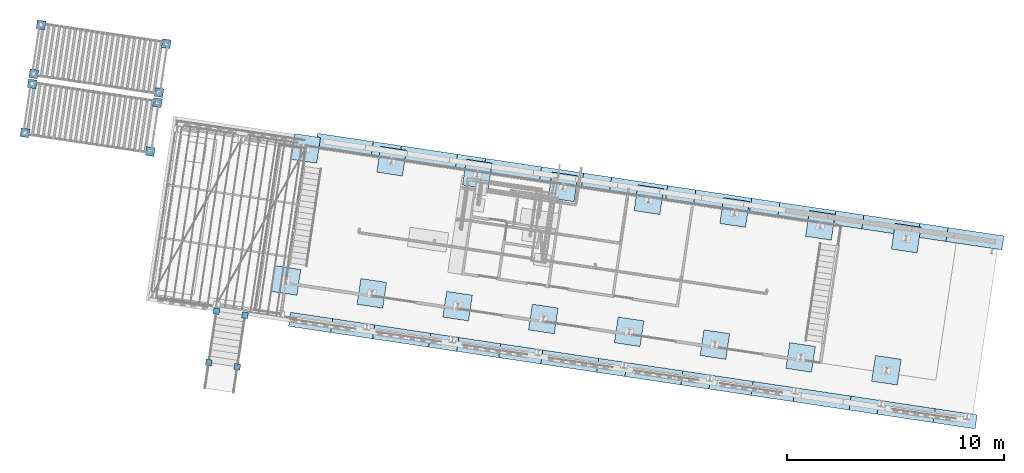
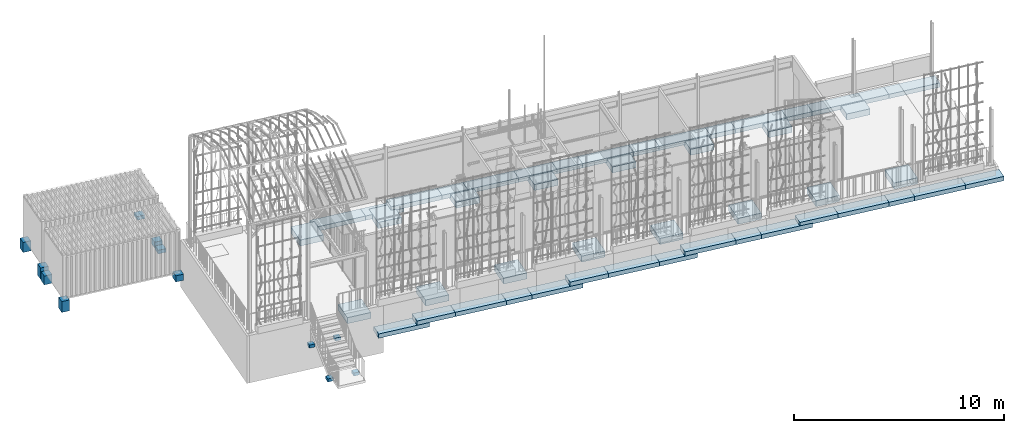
# One storey, part 1 of 142: 60 footings, 4 elements without a shape of their own.
"""IFC4 building model written with IfcOpenShell, lengths in metres."""

from ifc_helpers import new_model, si_unit, direction, frame, origin_with_axes, place, context, subcontext, project, spatial, polyline, outline, extrude, material, element, aggregate, save


model = new_model("IFC4")

# Units and contexts
model_context = context("Model", 3, precision=1e-05, world=origin_with_axes(), true_north=direction((0.0, 1.0)))
body_context = subcontext(model_context, "Body", "Model", "MODEL_VIEW")
ifc_project = project(units=[si_unit("VOLUMEUNIT", "CUBIC_METRE"), si_unit("LENGTHUNIT", "METRE"), si_unit("AREAUNIT", "SQUARE_METRE")], contexts=[model_context])

# Site, building, storey
site_placement = place(None, origin_with_axes())
site = spatial("IfcSite", under=ifc_project, at=site_placement, Name="Lares · Rua das Mercês · artigo 4771")
building_placement = place(site_placement, frame((12.0, 10.2, 13.9), z_axis=(0.0, 0.0, 1.0), x_axis=(0.989015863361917, -0.147809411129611, 0.0)))
building = spatial("IfcBuilding", under=site, at=building_placement, Name="Casa Sobreposta")
storey_placement = place(building_placement, origin_with_axes())
storey = spatial("IfcBuildingStorey", under=building, at=storey_placement, Name="00 · Habitação e estacionamento", Elevation=13.9)

# Footings
ifc_material = material(Name="Betão armado / Stahlbeton", Category="concrete")
footing_1_placement = place(storey_placement, frame((0.0, 0.0, -1.6), z_axis=(0.0, 0.0, 1.0), x_axis=(1.0, 0.0, 0.0)))
element("IfcFooting", 1, at=footing_1_placement, inside=storey, material=ifc_material, Name="Sapata 1A · hipótese", PredefinedType="PAD_FOOTING", context=body_context, shape_type="SweptSolid", body=[
    extrude(outline(polyline([(0.6, -0.48), (0.6, 0.72), (-0.6, 0.72), (-0.6, -0.48), (0.6, -0.48)])), origin_with_axes(), (0.0, 0.0, 1.0), 0.35),
])
footing_2_placement = place(storey_placement, frame((0.0, 0.0, -1.1), z_axis=(0.0, 0.0, 1.0), x_axis=(1.0, 0.0, 0.0)))
element("IfcFooting", 2, at=footing_2_placement, inside=storey, material=ifc_material, Name="Sapata 1B · hipótese", PredefinedType="PAD_FOOTING", context=body_context, shape_type="SweptSolid", body=[
    extrude(outline(polyline([(0.6, 5.68), (0.6, 6.88), (-0.6, 6.88), (-0.6, 5.68), (0.6, 5.68)])), origin_with_axes(), (0.0, 0.0, 1.0), 0.35),
])
footing_3_placement = place(storey_placement, frame((0.0, 0.0, -1.6), z_axis=(0.0, 0.0, 1.0), x_axis=(1.0, 0.0, 0.0)))
element("IfcFooting", 3, at=footing_3_placement, inside=storey, material=ifc_material, Name="Sapata 2A · hipótese", PredefinedType="PAD_FOOTING", context=body_context, shape_type="SweptSolid", body=[
    extrude(outline(polyline([(4.6, -0.48), (4.6, 0.72), (3.4, 0.72), (3.4, -0.48), (4.6, -0.48)])), origin_with_axes(), (0.0, 0.0, 1.0), 0.35),
])
footing_4_placement = place(storey_placement, frame((0.0, 0.0, -1.1), z_axis=(0.0, 0.0, 1.0), x_axis=(1.0, 0.0, 0.0)))
element("IfcFooting", 4, at=footing_4_placement, inside=storey, material=ifc_material, Name="Sapata 2B · hipótese", PredefinedType="PAD_FOOTING", context=body_context, shape_type="SweptSolid", body=[
    extrude(outline(polyline([(4.6, 5.68), (4.6, 6.88), (3.4, 6.88), (3.4, 5.68), (4.6, 5.68)])), origin_with_axes(), (0.0, 0.0, 1.0), 0.35),
])
footing_5_placement = place(storey_placement, frame((0.0, 0.0, -1.35), z_axis=(0.0, 0.0, 1.0), x_axis=(1.0, 0.0, 0.0)))
element("IfcFooting", 5, at=footing_5_placement, inside=storey, material=ifc_material, Name="Sapata 3A · hipótese", PredefinedType="PAD_FOOTING", context=body_context, shape_type="SweptSolid", body=[
    extrude(outline(polyline([(8.6, -0.48), (8.6, 0.72), (7.4, 0.72), (7.4, -0.48), (8.6, -0.48)])), origin_with_axes(), (0.0, 0.0, 1.0), 0.35),
])
footing_6_placement = place(storey_placement, frame((0.0, 0.0, -0.95), z_axis=(0.0, 0.0, 1.0), x_axis=(1.0, 0.0, 0.0)))
element("IfcFooting", 6, at=footing_6_placement, inside=storey, material=ifc_material, Name="Sapata 3B · hipótese", PredefinedType="PAD_FOOTING", context=body_context, shape_type="SweptSolid", body=[
    extrude(outline(polyline([(8.6, 5.68), (8.6, 6.88), (7.4, 6.88), (7.4, 5.68), (8.6, 5.68)])), origin_with_axes(), (0.0, 0.0, 1.0), 0.35),
])
footing_7_placement = place(storey_placement, frame((0.0, 0.0, -1.1), z_axis=(0.0, 0.0, 1.0), x_axis=(1.0, 0.0, 0.0)))
element("IfcFooting", 7, at=footing_7_placement, inside=storey, material=ifc_material, Name="Sapata 4A · hipótese", PredefinedType="PAD_FOOTING", context=body_context, shape_type="SweptSolid", body=[
    extrude(outline(polyline([(12.6, -0.48), (12.6, 0.72), (11.4, 0.72), (11.4, -0.48), (12.6, -0.48)])), origin_with_axes(), (0.0, 0.0, 1.0), 0.35),
])
footing_8_placement = place(storey_placement, frame((0.0, 0.0, -0.95), z_axis=(0.0, 0.0, 1.0), x_axis=(1.0, 0.0, 0.0)))
element("IfcFooting", 8, at=footing_8_placement, inside=storey, material=ifc_material, Name="Sapata 4B · hipótese", PredefinedType="PAD_FOOTING", context=body_context, shape_type="SweptSolid", body=[
    extrude(outline(polyline([(12.6, 5.68), (12.6, 6.88), (11.4, 6.88), (11.4, 5.68), (12.6, 5.68)])), origin_with_axes(), (0.0, 0.0, 1.0), 0.35),
])
footing_9_placement = place(storey_placement, frame((0.0, 0.0, -1.1), z_axis=(0.0, 0.0, 1.0), x_axis=(1.0, 0.0, 0.0)))
element("IfcFooting", 9, at=footing_9_placement, inside=storey, material=ifc_material, Name="Sapata 5A · hipótese", PredefinedType="PAD_FOOTING", context=body_context, shape_type="SweptSolid", body=[
    extrude(outline(polyline([(16.6, -0.48), (16.6, 0.72), (15.4, 0.72), (15.4, -0.48), (16.6, -0.48)])), origin_with_axes(), (0.0, 0.0, 1.0), 0.35),
])
footing_10_placement = place(storey_placement, frame((0.0, 0.0, -0.95), z_axis=(0.0, 0.0, 1.0), x_axis=(1.0, 0.0, 0.0)))
element("IfcFooting", 10, at=footing_10_placement, inside=storey, material=ifc_material, Name="Sapata 5B · hipótese", PredefinedType="PAD_FOOTING", context=body_context, shape_type="SweptSolid", body=[
    extrude(outline(polyline([(16.6, 5.68), (16.6, 6.88), (15.4, 6.88), (15.4, 5.68), (16.6, 5.68)])), origin_with_axes(), (0.0, 0.0, 1.0), 0.35),
])
footing_11_placement = place(storey_placement, frame((0.0, 0.0, -0.95), z_axis=(0.0, 0.0, 1.0), x_axis=(1.0, 0.0, 0.0)))
element("IfcFooting", 11, at=footing_11_placement, inside=storey, material=ifc_material, Name="Sapata 6A · hipótese", PredefinedType="PAD_FOOTING", context=body_context, shape_type="SweptSolid", body=[
    extrude(outline(polyline([(20.6, -0.48), (20.6, 0.72), (19.4, 0.72), (19.4, -0.48), (20.6, -0.48)])), origin_with_axes(), (0.0, 0.0, 1.0), 0.35),
])
footing_12_placement = place(storey_placement, frame((0.0, 0.0, -0.95), z_axis=(0.0, 0.0, 1.0), x_axis=(1.0, 0.0, 0.0)))
element("IfcFooting", 12, at=footing_12_placement, inside=storey, material=ifc_material, Name="Sapata 6B · hipótese", PredefinedType="PAD_FOOTING", context=body_context, shape_type="SweptSolid", body=[
    extrude(outline(polyline([(20.6, 5.68), (20.6, 6.88), (19.4, 6.88), (19.4, 5.68), (20.6, 5.68)])), origin_with_axes(), (0.0, 0.0, 1.0), 0.35),
])
footing_13_placement = place(storey_placement, frame((0.0, 0.0, -0.95), z_axis=(0.0, 0.0, 1.0), x_axis=(1.0, 0.0, 0.0)))
element("IfcFooting", 13, at=footing_13_placement, inside=storey, material=ifc_material, Name="Sapata 7A · hipótese", PredefinedType="PAD_FOOTING", context=body_context, shape_type="SweptSolid", body=[
    extrude(outline(polyline([(24.6, -0.48), (24.6, 0.72), (23.4, 0.72), (23.4, -0.48), (24.6, -0.48)])), origin_with_axes(), (0.0, 0.0, 1.0), 0.35),
])
footing_14_placement = place(storey_placement, frame((0.0, 0.0, -0.95), z_axis=(0.0, 0.0, 1.0), x_axis=(1.0, 0.0, 0.0)))
element("IfcFooting", 14, at=footing_14_placement, inside=storey, material=ifc_material, Name="Sapata 7B · hipótese", PredefinedType="PAD_FOOTING", context=body_context, shape_type="SweptSolid", body=[
    extrude(outline(polyline([(24.6, 5.68), (24.6, 6.88), (23.4, 6.88), (23.4, 5.68), (24.6, 5.68)])), origin_with_axes(), (0.0, 0.0, 1.0), 0.35),
])
footing_15_placement = place(storey_placement, frame((0.0, 0.0, -0.95), z_axis=(0.0, 0.0, 1.0), x_axis=(1.0, 0.0, 0.0)))
element("IfcFooting", 15, at=footing_15_placement, inside=storey, material=ifc_material, Name="Sapata 8A · hipótese", PredefinedType="PAD_FOOTING", context=body_context, shape_type="SweptSolid", body=[
    extrude(outline(polyline([(28.6, -0.48), (28.6, 0.72), (27.4, 0.72), (27.4, -0.48), (28.6, -0.48)])), origin_with_axes(), (0.0, 0.0, 1.0), 0.35),
])
footing_16_placement = place(storey_placement, frame((0.0, 0.0, -0.95), z_axis=(0.0, 0.0, 1.0), x_axis=(1.0, 0.0, 0.0)))
element("IfcFooting", 16, at=footing_16_placement, inside=storey, material=ifc_material, Name="Sapata 8B · hipótese", PredefinedType="PAD_FOOTING", context=body_context, shape_type="SweptSolid", body=[
    extrude(outline(polyline([(28.6, 5.68), (28.6, 6.88), (27.4, 6.88), (27.4, 5.68), (28.6, 5.68)])), origin_with_axes(), (0.0, 0.0, 1.0), 0.35),
])

# Stair, footings
stair_placement = place(storey_placement, origin_with_axes())
stair = element("IfcStair", 17, at=stair_placement, inside=storey, Name="Jardim · acesso do terraço", PredefinedType="STRAIGHT_RUN_STAIR")
footing_17_placement = place(stair_placement, frame((0.0, 0.0, -1.46531570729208), z_axis=(0.0, 0.0, 1.0), x_axis=(1.0, 0.0, 0.0)))
footing_17 = element("IfcFooting", 18, at=footing_17_placement, material=ifc_material, Name="Jardim · apoio", PredefinedType="PAD_FOOTING", context=body_context, shape_type="SweptSolid", body=[
    extrude(outline(polyline([(-2.825, -1.89), (-2.825, -1.61), (-3.105, -1.61), (-3.105, -1.89), (-2.825, -1.89)])), origin_with_axes(), (0.0, 0.0, 1.0), 0.18),
])
footing_18_placement = place(stair_placement, frame((0.0, 0.0, -1.87), z_axis=(0.0, 0.0, 1.0), x_axis=(1.0, 0.0, 0.0)))
footing_18 = element("IfcFooting", 19, at=footing_18_placement, material=ifc_material, Name="Jardim · apoio", PredefinedType="PAD_FOOTING", context=body_context, shape_type="SweptSolid", body=[
    extrude(outline(polyline([(-2.825, -4.29), (-2.825, -4.01), (-3.105, -4.01), (-3.105, -4.29), (-2.825, -4.29)])), origin_with_axes(), (0.0, 0.0, 1.0), 0.18),
])
footing_19_placement = place(stair_placement, frame((0.0, 0.0, -1.39671618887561), z_axis=(0.0, 0.0, 1.0), x_axis=(1.0, 0.0, 0.0)))
footing_19 = element("IfcFooting", 20, at=footing_19_placement, material=ifc_material, Name="Jardim · apoio", PredefinedType="PAD_FOOTING", context=body_context, shape_type="SweptSolid", body=[
    extrude(outline(polyline([(-1.495, -1.89), (-1.495, -1.61), (-1.775, -1.61), (-1.775, -1.89), (-1.495, -1.89)])), origin_with_axes(), (0.0, 0.0, 1.0), 0.18),
])
footing_20_placement = place(stair_placement, frame((0.0, 0.0, -1.87), z_axis=(0.0, 0.0, 1.0), x_axis=(1.0, 0.0, 0.0)))
footing_20 = element("IfcFooting", 21, at=footing_20_placement, material=ifc_material, Name="Jardim · apoio", PredefinedType="PAD_FOOTING", context=body_context, shape_type="SweptSolid", body=[
    extrude(outline(polyline([(-1.495, -4.29), (-1.495, -4.01), (-1.775, -4.01), (-1.775, -4.29), (-1.495, -4.29)])), origin_with_axes(), (0.0, 0.0, 1.0), 0.18),
])
aggregate(stair, [footing_17, footing_18, footing_19, footing_20])

# Assembly, footings
assembly_1_placement = place(storey_placement, origin_with_axes())
assembly_1 = element("IfcElementAssembly", 22, at=assembly_1_placement, inside=storey, Name="Pódio · projeção da estufa e cisterna", ObjectType="CISTERN_PODIUM", PredefinedType="USERDEFINED")
footing_21_placement = place(assembly_1_placement, frame((0.0, 0.0, -1.75), z_axis=(0.0, 0.0, 1.0), x_axis=(1.0, 0.0, 0.0)))
footing_21 = element("IfcFooting", 23, at=footing_21_placement, material=ifc_material, Name="Pódio · fundação sul", PredefinedType="STRIP_FOOTING", context=body_context, shape_type="SweptSolid", body=[
    extrude(outline(polyline([(2.7109375, -1.3), (3.0359375, -1.3), (3.0359375, -1.95), (0.75, -1.95), (0.425, -1.95), (0.425, -1.3), (2.7109375, -1.3)])), origin_with_axes(), (0.0, 0.0, 1.0), 0.25),
])
footing_22_placement = place(assembly_1_placement, frame((0.0, 0.0, -1.5), z_axis=(0.0, 0.0, 1.0), x_axis=(1.0, 0.0, 0.0)))
footing_22 = element("IfcFooting", 24, at=footing_22_placement, material=ifc_material, Name="Pódio · fundação sul", PredefinedType="STRIP_FOOTING", context=body_context, shape_type="SweptSolid", body=[
    extrude(outline(polyline([(4.671875, -1.3), (4.996875, -1.3), (4.996875, -1.95), (2.7109375, -1.95), (2.3859375, -1.95), (2.3859375, -1.3), (4.671875, -1.3)])), origin_with_axes(), (0.0, 0.0, 1.0), 0.25),
])
footing_23_placement = place(assembly_1_placement, frame((0.0, 0.0, -1.5), z_axis=(0.0, 0.0, 1.0), x_axis=(1.0, 0.0, 0.0)))
footing_23 = element("IfcFooting", 25, at=footing_23_placement, material=ifc_material, Name="Pódio · fundação sul", PredefinedType="STRIP_FOOTING", context=body_context, shape_type="SweptSolid", body=[
    extrude(outline(polyline([(6.6328125, -1.3), (6.9578125, -1.3), (6.9578125, -1.95), (4.671875, -1.95), (4.346875, -1.95), (4.346875, -1.3), (6.6328125, -1.3)])), origin_with_axes(), (0.0, 0.0, 1.0), 0.25),
])
footing_24_placement = place(assembly_1_placement, frame((0.0, 0.0, -1.5), z_axis=(0.0, 0.0, 1.0), x_axis=(1.0, 0.0, 0.0)))
footing_24 = element("IfcFooting", 26, at=footing_24_placement, material=ifc_material, Name="Pódio · fundação sul", PredefinedType="STRIP_FOOTING", context=body_context, shape_type="SweptSolid", body=[
    extrude(outline(polyline([(8.59375, -1.3), (8.91875, -1.3), (8.91875, -1.95), (6.6328125, -1.95), (6.3078125, -1.95), (6.3078125, -1.3), (8.59375, -1.3)])), origin_with_axes(), (0.0, 0.0, 1.0), 0.25),
])
footing_25_placement = place(assembly_1_placement, frame((0.0, 0.0, -1.5), z_axis=(0.0, 0.0, 1.0), x_axis=(1.0, 0.0, 0.0)))
footing_25 = element("IfcFooting", 27, at=footing_25_placement, material=ifc_material, Name="Pódio · fundação sul", PredefinedType="STRIP_FOOTING", context=body_context, shape_type="SweptSolid", body=[
    extrude(outline(polyline([(10.5546875, -1.3), (10.8796875, -1.3), (10.8796875, -1.95), (8.59375, -1.95), (8.26875, -1.95), (8.26875, -1.3), (10.5546875, -1.3)])), origin_with_axes(), (0.0, 0.0, 1.0), 0.25),
])
footing_26_placement = place(assembly_1_placement, frame((0.0, 0.0, -1.25), z_axis=(0.0, 0.0, 1.0), x_axis=(1.0, 0.0, 0.0)))
footing_26 = element("IfcFooting", 28, at=footing_26_placement, material=ifc_material, Name="Pódio · fundação sul", PredefinedType="STRIP_FOOTING", context=body_context, shape_type="SweptSolid", body=[
    extrude(outline(polyline([(12.515625, -1.3), (12.840625, -1.3), (12.840625, -1.95), (10.5546875, -1.95), (10.2296875, -1.95), (10.2296875, -1.3), (12.515625, -1.3)])), origin_with_axes(), (0.0, 0.0, 1.0), 0.25),
])
footing_27_placement = place(assembly_1_placement, frame((0.0, 0.0, -1.25), z_axis=(0.0, 0.0, 1.0), x_axis=(1.0, 0.0, 0.0)))
footing_27 = element("IfcFooting", 29, at=footing_27_placement, material=ifc_material, Name="Pódio · fundação sul", PredefinedType="STRIP_FOOTING", context=body_context, shape_type="SweptSolid", body=[
    extrude(outline(polyline([(14.4765625, -1.3), (14.8015625, -1.3), (14.8015625, -1.95), (12.515625, -1.95), (12.190625, -1.95), (12.190625, -1.3), (14.4765625, -1.3)])), origin_with_axes(), (0.0, 0.0, 1.0), 0.25),
])
footing_28_placement = place(assembly_1_placement, frame((0.0, 0.0, -1.25), z_axis=(0.0, 0.0, 1.0), x_axis=(1.0, 0.0, 0.0)))
footing_28 = element("IfcFooting", 30, at=footing_28_placement, material=ifc_material, Name="Pódio · fundação sul", PredefinedType="STRIP_FOOTING", context=body_context, shape_type="SweptSolid", body=[
    extrude(outline(polyline([(16.4375, -1.3), (16.7625, -1.3), (16.7625, -1.95), (14.4765625, -1.95), (14.1515625, -1.95), (14.1515625, -1.3), (16.4375, -1.3)])), origin_with_axes(), (0.0, 0.0, 1.0), 0.25),
])
footing_29_placement = place(assembly_1_placement, frame((0.0, 0.0, -1.0), z_axis=(0.0, 0.0, 1.0), x_axis=(1.0, 0.0, 0.0)))
footing_29 = element("IfcFooting", 31, at=footing_29_placement, material=ifc_material, Name="Pódio · fundação sul", PredefinedType="STRIP_FOOTING", context=body_context, shape_type="SweptSolid", body=[
    extrude(outline(polyline([(18.3984375, -1.3), (18.7234375, -1.3), (18.7234375, -1.95), (16.4375, -1.95), (16.1125, -1.95), (16.1125, -1.3), (18.3984375, -1.3)])), origin_with_axes(), (0.0, 0.0, 1.0), 0.25),
])
footing_30_placement = place(assembly_1_placement, frame((0.0, 0.0, -1.0), z_axis=(0.0, 0.0, 1.0), x_axis=(1.0, 0.0, 0.0)))
footing_30 = element("IfcFooting", 32, at=footing_30_placement, material=ifc_material, Name="Pódio · fundação sul", PredefinedType="STRIP_FOOTING", context=body_context, shape_type="SweptSolid", body=[
    extrude(outline(polyline([(20.359375, -1.3), (20.684375, -1.3), (20.684375, -1.95), (18.3984375, -1.95), (18.0734375, -1.95), (18.0734375, -1.3), (20.359375, -1.3)])), origin_with_axes(), (0.0, 0.0, 1.0), 0.25),
])
footing_31_placement = place(assembly_1_placement, frame((0.0, 0.0, -1.0), z_axis=(0.0, 0.0, 1.0), x_axis=(1.0, 0.0, 0.0)))
footing_31 = element("IfcFooting", 33, at=footing_31_placement, material=ifc_material, Name="Pódio · fundação sul", PredefinedType="STRIP_FOOTING", context=body_context, shape_type="SweptSolid", body=[
    extrude(outline(polyline([(22.3203125, -1.3), (22.6453125, -1.3), (22.6453125, -1.95), (20.359375, -1.95), (20.034375, -1.95), (20.034375, -1.3), (22.3203125, -1.3)])), origin_with_axes(), (0.0, 0.0, 1.0), 0.25),
])
footing_32_placement = place(assembly_1_placement, frame((0.0, 0.0, -0.8), z_axis=(0.0, 0.0, 1.0), x_axis=(1.0, 0.0, 0.0)))
footing_32 = element("IfcFooting", 34, at=footing_32_placement, material=ifc_material, Name="Pódio · fundação sul", PredefinedType="STRIP_FOOTING", context=body_context, shape_type="SweptSolid", body=[
    extrude(outline(polyline([(24.28125, -1.3), (24.60625, -1.3), (24.60625, -1.95), (22.3203125, -1.95), (21.9953125, -1.95), (21.9953125, -1.3), (24.28125, -1.3)])), origin_with_axes(), (0.0, 0.0, 1.0), 0.25),
])
footing_33_placement = place(assembly_1_placement, frame((0.0, 0.0, -0.8), z_axis=(0.0, 0.0, 1.0), x_axis=(1.0, 0.0, 0.0)))
footing_33 = element("IfcFooting", 35, at=footing_33_placement, material=ifc_material, Name="Pódio · fundação sul", PredefinedType="STRIP_FOOTING", context=body_context, shape_type="SweptSolid", body=[
    extrude(outline(polyline([(26.2421875, -1.3), (26.5671875, -1.3), (26.5671875, -1.95), (24.28125, -1.95), (23.95625, -1.95), (23.95625, -1.3), (26.2421875, -1.3)])), origin_with_axes(), (0.0, 0.0, 1.0), 0.25),
])
footing_34_placement = place(assembly_1_placement, frame((0.0, 0.0, -0.8), z_axis=(0.0, 0.0, 1.0), x_axis=(1.0, 0.0, 0.0)))
footing_34 = element("IfcFooting", 36, at=footing_34_placement, material=ifc_material, Name="Pódio · fundação sul", PredefinedType="STRIP_FOOTING", context=body_context, shape_type="SweptSolid", body=[
    extrude(outline(polyline([(28.203125, -1.3), (28.528125, -1.3), (28.528125, -1.95), (26.2421875, -1.95), (25.9171875, -1.95), (25.9171875, -1.3), (28.203125, -1.3)])), origin_with_axes(), (0.0, 0.0, 1.0), 0.25),
])
footing_35_placement = place(assembly_1_placement, frame((0.0, 0.0, -0.8), z_axis=(0.0, 0.0, 1.0), x_axis=(1.0, 0.0, 0.0)))
footing_35 = element("IfcFooting", 37, at=footing_35_placement, material=ifc_material, Name="Pódio · fundação sul", PredefinedType="STRIP_FOOTING", context=body_context, shape_type="SweptSolid", body=[
    extrude(outline(polyline([(30.1640625, -1.3), (30.4890625, -1.3), (30.4890625, -1.95), (28.203125, -1.95), (27.878125, -1.95), (27.878125, -1.3), (30.1640625, -1.3)])), origin_with_axes(), (0.0, 0.0, 1.0), 0.25),
])
footing_36_placement = place(assembly_1_placement, frame((0.0, 0.0, -0.8), z_axis=(0.0, 0.0, 1.0), x_axis=(1.0, 0.0, 0.0)))
footing_36 = element("IfcFooting", 38, at=footing_36_placement, material=ifc_material, Name="Pódio · fundação sul", PredefinedType="STRIP_FOOTING", context=body_context, shape_type="SweptSolid", body=[
    extrude(outline(polyline([(32.125, -1.3), (32.45, -1.3), (32.45, -1.95), (30.1640625, -1.95), (29.8390625, -1.95), (29.8390625, -1.3), (32.125, -1.3)])), origin_with_axes(), (0.0, 0.0, 1.0), 0.25),
])
footing_37_placement = place(assembly_1_placement, frame((0.0, 0.0, -1.0), z_axis=(0.0, 0.0, 1.0), x_axis=(1.0, 0.0, 0.0)))
footing_37 = element("IfcFooting", 39, at=footing_37_placement, material=ifc_material, Name="Pódio · fundação norte", PredefinedType="STRIP_FOOTING", context=body_context, shape_type="SweptSolid", body=[
    extrude(outline(polyline([(2.7109375, 7.05), (3.0359375, 7.05), (3.0359375, 6.4), (0.75, 6.4), (0.425, 6.4), (0.425, 7.05), (2.7109375, 7.05)])), origin_with_axes(), (0.0, 0.0, 1.0), 0.25),
])
footing_38_placement = place(assembly_1_placement, frame((0.0, 0.0, -1.0), z_axis=(0.0, 0.0, 1.0), x_axis=(1.0, 0.0, 0.0)))
footing_38 = element("IfcFooting", 40, at=footing_38_placement, material=ifc_material, Name="Pódio · fundação norte", PredefinedType="STRIP_FOOTING", context=body_context, shape_type="SweptSolid", body=[
    extrude(outline(polyline([(4.671875, 7.05), (4.996875, 7.05), (4.996875, 6.4), (2.7109375, 6.4), (2.3859375, 6.4), (2.3859375, 7.05), (4.671875, 7.05)])), origin_with_axes(), (0.0, 0.0, 1.0), 0.25),
])
footing_39_placement = place(assembly_1_placement, frame((0.0, 0.0, -0.8), z_axis=(0.0, 0.0, 1.0), x_axis=(1.0, 0.0, 0.0)))
footing_39 = element("IfcFooting", 41, at=footing_39_placement, material=ifc_material, Name="Pódio · fundação norte", PredefinedType="STRIP_FOOTING", context=body_context, shape_type="SweptSolid", body=[
    extrude(outline(polyline([(6.6328125, 7.05), (6.9578125, 7.05), (6.9578125, 6.4), (4.671875, 6.4), (4.346875, 6.4), (4.346875, 7.05), (6.6328125, 7.05)])), origin_with_axes(), (0.0, 0.0, 1.0), 0.25),
])
footing_40_placement = place(assembly_1_placement, frame((0.0, 0.0, -0.8), z_axis=(0.0, 0.0, 1.0), x_axis=(1.0, 0.0, 0.0)))
footing_40 = element("IfcFooting", 42, at=footing_40_placement, material=ifc_material, Name="Pódio · fundação norte", PredefinedType="STRIP_FOOTING", context=body_context, shape_type="SweptSolid", body=[
    extrude(outline(polyline([(8.59375, 7.05), (8.91875, 7.05), (8.91875, 6.4), (6.6328125, 6.4), (6.3078125, 6.4), (6.3078125, 7.05), (8.59375, 7.05)])), origin_with_axes(), (0.0, 0.0, 1.0), 0.25),
])
footing_41_placement = place(assembly_1_placement, frame((0.0, 0.0, -0.8), z_axis=(0.0, 0.0, 1.0), x_axis=(1.0, 0.0, 0.0)))
footing_41 = element("IfcFooting", 43, at=footing_41_placement, material=ifc_material, Name="Pódio · fundação norte", PredefinedType="STRIP_FOOTING", context=body_context, shape_type="SweptSolid", body=[
    extrude(outline(polyline([(10.5546875, 7.05), (10.8796875, 7.05), (10.8796875, 6.4), (8.59375, 6.4), (8.26875, 6.4), (8.26875, 7.05), (10.5546875, 7.05)])), origin_with_axes(), (0.0, 0.0, 1.0), 0.25),
])
footing_42_placement = place(assembly_1_placement, frame((0.0, 0.0, -0.8), z_axis=(0.0, 0.0, 1.0), x_axis=(1.0, 0.0, 0.0)))
footing_42 = element("IfcFooting", 44, at=footing_42_placement, material=ifc_material, Name="Pódio · fundação norte", PredefinedType="STRIP_FOOTING", context=body_context, shape_type="SweptSolid", body=[
    extrude(outline(polyline([(12.515625, 7.05), (12.840625, 7.05), (12.840625, 6.4), (10.5546875, 6.4), (10.2296875, 6.4), (10.2296875, 7.05), (12.515625, 7.05)])), origin_with_axes(), (0.0, 0.0, 1.0), 0.25),
])
footing_43_placement = place(assembly_1_placement, frame((0.0, 0.0, -0.8), z_axis=(0.0, 0.0, 1.0), x_axis=(1.0, 0.0, 0.0)))
footing_43 = element("IfcFooting", 45, at=footing_43_placement, material=ifc_material, Name="Pódio · fundação norte", PredefinedType="STRIP_FOOTING", context=body_context, shape_type="SweptSolid", body=[
    extrude(outline(polyline([(14.4765625, 7.05), (14.8015625, 7.05), (14.8015625, 6.4), (12.515625, 6.4), (12.190625, 6.4), (12.190625, 7.05), (14.4765625, 7.05)])), origin_with_axes(), (0.0, 0.0, 1.0), 0.25),
])
footing_44_placement = place(assembly_1_placement, frame((0.0, 0.0, -0.8), z_axis=(0.0, 0.0, 1.0), x_axis=(1.0, 0.0, 0.0)))
footing_44 = element("IfcFooting", 46, at=footing_44_placement, material=ifc_material, Name="Pódio · fundação norte", PredefinedType="STRIP_FOOTING", context=body_context, shape_type="SweptSolid", body=[
    extrude(outline(polyline([(16.4375, 7.05), (16.7625, 7.05), (16.7625, 6.4), (14.4765625, 6.4), (14.1515625, 6.4), (14.1515625, 7.05), (16.4375, 7.05)])), origin_with_axes(), (0.0, 0.0, 1.0), 0.25),
])
footing_45_placement = place(assembly_1_placement, frame((0.0, 0.0, -0.8), z_axis=(0.0, 0.0, 1.0), x_axis=(1.0, 0.0, 0.0)))
footing_45 = element("IfcFooting", 47, at=footing_45_placement, material=ifc_material, Name="Pódio · fundação norte", PredefinedType="STRIP_FOOTING", context=body_context, shape_type="SweptSolid", body=[
    extrude(outline(polyline([(18.3984375, 7.05), (18.7234375, 7.05), (18.7234375, 6.4), (16.4375, 6.4), (16.1125, 6.4), (16.1125, 7.05), (18.3984375, 7.05)])), origin_with_axes(), (0.0, 0.0, 1.0), 0.25),
])
footing_46_placement = place(assembly_1_placement, frame((0.0, 0.0, -0.8), z_axis=(0.0, 0.0, 1.0), x_axis=(1.0, 0.0, 0.0)))
footing_46 = element("IfcFooting", 48, at=footing_46_placement, material=ifc_material, Name="Pódio · fundação norte", PredefinedType="STRIP_FOOTING", context=body_context, shape_type="SweptSolid", body=[
    extrude(outline(polyline([(20.359375, 7.05), (20.684375, 7.05), (20.684375, 6.4), (18.3984375, 6.4), (18.0734375, 6.4), (18.0734375, 7.05), (20.359375, 7.05)])), origin_with_axes(), (0.0, 0.0, 1.0), 0.25),
])
footing_47_placement = place(assembly_1_placement, frame((0.0, 0.0, -0.8), z_axis=(0.0, 0.0, 1.0), x_axis=(1.0, 0.0, 0.0)))
footing_47 = element("IfcFooting", 49, at=footing_47_placement, material=ifc_material, Name="Pódio · fundação norte", PredefinedType="STRIP_FOOTING", context=body_context, shape_type="SweptSolid", body=[
    extrude(outline(polyline([(22.3203125, 7.05), (22.6453125, 7.05), (22.6453125, 6.4), (20.359375, 6.4), (20.034375, 6.4), (20.034375, 7.05), (22.3203125, 7.05)])), origin_with_axes(), (0.0, 0.0, 1.0), 0.25),
])
footing_48_placement = place(assembly_1_placement, frame((0.0, 0.0, -0.8), z_axis=(0.0, 0.0, 1.0), x_axis=(1.0, 0.0, 0.0)))
footing_48 = element("IfcFooting", 50, at=footing_48_placement, material=ifc_material, Name="Pódio · fundação norte", PredefinedType="STRIP_FOOTING", context=body_context, shape_type="SweptSolid", body=[
    extrude(outline(polyline([(24.28125, 7.05), (24.60625, 7.05), (24.60625, 6.4), (22.3203125, 6.4), (21.9953125, 6.4), (21.9953125, 7.05), (24.28125, 7.05)])), origin_with_axes(), (0.0, 0.0, 1.0), 0.25),
])
footing_49_placement = place(assembly_1_placement, frame((0.0, 0.0, -0.8), z_axis=(0.0, 0.0, 1.0), x_axis=(1.0, 0.0, 0.0)))
footing_49 = element("IfcFooting", 51, at=footing_49_placement, material=ifc_material, Name="Pódio · fundação norte", PredefinedType="STRIP_FOOTING", context=body_context, shape_type="SweptSolid", body=[
    extrude(outline(polyline([(26.2421875, 7.05), (26.5671875, 7.05), (26.5671875, 6.4), (24.28125, 6.4), (23.95625, 6.4), (23.95625, 7.05), (26.2421875, 7.05)])), origin_with_axes(), (0.0, 0.0, 1.0), 0.25),
])
footing_50_placement = place(assembly_1_placement, frame((0.0, 0.0, -0.8), z_axis=(0.0, 0.0, 1.0), x_axis=(1.0, 0.0, 0.0)))
footing_50 = element("IfcFooting", 52, at=footing_50_placement, material=ifc_material, Name="Pódio · fundação norte", PredefinedType="STRIP_FOOTING", context=body_context, shape_type="SweptSolid", body=[
    extrude(outline(polyline([(28.203125, 7.05), (28.528125, 7.05), (28.528125, 6.4), (26.2421875, 6.4), (25.9171875, 6.4), (25.9171875, 7.05), (28.203125, 7.05)])), origin_with_axes(), (0.0, 0.0, 1.0), 0.25),
])
footing_51_placement = place(assembly_1_placement, frame((0.0, 0.0, -0.8), z_axis=(0.0, 0.0, 1.0), x_axis=(1.0, 0.0, 0.0)))
footing_51 = element("IfcFooting", 53, at=footing_51_placement, material=ifc_material, Name="Pódio · fundação norte", PredefinedType="STRIP_FOOTING", context=body_context, shape_type="SweptSolid", body=[
    extrude(outline(polyline([(30.1640625, 7.05), (30.4890625, 7.05), (30.4890625, 6.4), (28.203125, 6.4), (27.878125, 6.4), (27.878125, 7.05), (30.1640625, 7.05)])), origin_with_axes(), (0.0, 0.0, 1.0), 0.25),
])
footing_52_placement = place(assembly_1_placement, frame((0.0, 0.0, -0.8), z_axis=(0.0, 0.0, 1.0), x_axis=(1.0, 0.0, 0.0)))
footing_52 = element("IfcFooting", 54, at=footing_52_placement, material=ifc_material, Name="Pódio · fundação norte", PredefinedType="STRIP_FOOTING", context=body_context, shape_type="SweptSolid", body=[
    extrude(outline(polyline([(32.125, 7.05), (32.45, 7.05), (32.45, 6.4), (30.1640625, 6.4), (29.8390625, 6.4), (29.8390625, 7.05), (32.125, 7.05)])), origin_with_axes(), (0.0, 0.0, 1.0), 0.25),
])
aggregate(assembly_1, [footing_21, footing_22, footing_23, footing_24, footing_25, footing_26, footing_27, footing_28, footing_29, footing_30, footing_31, footing_32, footing_33, footing_34, footing_35, footing_36, footing_37, footing_38, footing_39, footing_40, footing_41, footing_42, footing_43, footing_44, footing_45, footing_46, footing_47, footing_48, footing_49, footing_50, footing_51, footing_52])

assembly_2_placement = place(storey_placement, origin_with_axes())
assembly_2 = element("IfcElementAssembly", 55, at=assembly_2_placement, inside=storey, ObjectType="EXISTING_SHIPPING_CONTAINER", PredefinedType="USERDEFINED")
footing_53_placement = place(assembly_2_placement, frame((0.0, 0.0, -1.22780056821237), z_axis=(0.0, 0.0, 1.0), x_axis=(1.0, 0.0, 0.0)))
footing_53 = element("IfcFooting", 56, at=footing_53_placement, material=ifc_material, Name="Contentor · apoio existente indicativo", PredefinedType="PAD_FOOTING", context=body_context, shape_type="SweptSolid", body=[
    extrude(outline(polyline([(-12.72, 4.88), (-12.72, 5.28), (-13.12, 5.28), (-13.12, 4.88), (-12.72, 4.88)])), origin_with_axes(), (0.0, 0.0, 1.0), 0.633573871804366),
])
footing_54_placement = place(assembly_2_placement, frame((0.0, 0.0, -1.10602506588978), z_axis=(0.0, 0.0, 1.0), x_axis=(1.0, 0.0, 0.0)))
footing_54 = element("IfcFooting", 57, at=footing_54_placement, material=ifc_material, Name="Contentor · apoio existente indicativo", PredefinedType="PAD_FOOTING", context=body_context, shape_type="SweptSolid", body=[
    extrude(outline(polyline([(-12.72, 7.16), (-12.72, 7.56), (-13.12, 7.56), (-13.12, 7.16), (-12.72, 7.16)])), origin_with_axes(), (0.0, 0.0, 1.0), 0.511798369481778),
])
footing_55_placement = place(assembly_2_placement, frame((0.0, 0.0, -0.952364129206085), z_axis=(0.0, 0.0, 1.0), x_axis=(1.0, 0.0, 0.0)))
footing_55 = element("IfcFooting", 58, at=footing_55_placement, material=ifc_material, Name="Contentor · apoio existente indicativo", PredefinedType="PAD_FOOTING", context=body_context, shape_type="SweptSolid", body=[
    extrude(outline(polyline([(-6.88, 4.88), (-6.88, 5.28), (-7.28, 5.28), (-7.28, 4.88), (-6.88, 4.88)])), origin_with_axes(), (0.0, 0.0, 1.0), 0.358137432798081),
])
footing_56_placement = place(assembly_2_placement, frame((0.0, 0.0, -0.804065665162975), z_axis=(0.0, 0.0, 1.0), x_axis=(1.0, 0.0, 0.0)))
footing_56 = element("IfcFooting", 59, at=footing_56_placement, material=ifc_material, Name="Contentor · apoio existente indicativo", PredefinedType="PAD_FOOTING", context=body_context, shape_type="SweptSolid", body=[
    extrude(outline(polyline([(-6.88, 7.16), (-6.88, 7.56), (-7.28, 7.56), (-7.28, 7.16), (-6.88, 7.16)])), origin_with_axes(), (0.0, 0.0, 1.0), 0.209838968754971),
])
aggregate(assembly_2, [footing_53, footing_54, footing_55, footing_56])

assembly_3_placement = place(storey_placement, origin_with_axes())
assembly_3 = element("IfcElementAssembly", 60, at=assembly_3_placement, inside=storey, ObjectType="EXISTING_SHIPPING_CONTAINER", PredefinedType="USERDEFINED")
footing_57_placement = place(assembly_3_placement, frame((0.0, 0.0, -1.09499475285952), z_axis=(0.0, 0.0, 1.0), x_axis=(1.0, 0.0, 0.0)))
footing_57 = element("IfcFooting", 61, at=footing_57_placement, material=ifc_material, Name="Contentor · apoio existente indicativo", PredefinedType="PAD_FOOTING", context=body_context, shape_type="SweptSolid", body=[
    extrude(outline(polyline([(-12.72, 7.63), (-12.72, 8.03), (-13.12, 8.03), (-13.12, 7.63), (-12.72, 7.63)])), origin_with_axes(), (0.0, 0.0, 1.0), 0.66516303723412),
])
footing_58_placement = place(assembly_3_placement, frame((0.0, 0.0, -1.01621687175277), z_axis=(0.0, 0.0, 1.0), x_axis=(1.0, 0.0, 0.0)))
footing_58 = element("IfcFooting", 62, at=footing_58_placement, material=ifc_material, Name="Contentor · apoio existente indicativo", PredefinedType="PAD_FOOTING", context=body_context, shape_type="SweptSolid", body=[
    extrude(outline(polyline([(-12.72, 9.91), (-12.72, 10.31), (-13.12, 10.31), (-13.12, 9.91), (-12.72, 9.91)])), origin_with_axes(), (0.0, 0.0, 1.0), 0.586385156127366),
])
footing_59_placement = place(assembly_3_placement, frame((0.0, 0.0, -0.775969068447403), z_axis=(0.0, 0.0, 1.0), x_axis=(1.0, 0.0, 0.0)))
footing_59 = element("IfcFooting", 63, at=footing_59_placement, material=ifc_material, Name="Contentor · apoio existente indicativo", PredefinedType="PAD_FOOTING", context=body_context, shape_type="SweptSolid", body=[
    extrude(outline(polyline([(-6.88, 7.63), (-6.88, 8.03), (-7.28, 8.03), (-7.28, 7.63), (-6.88, 7.63)])), origin_with_axes(), (0.0, 0.0, 1.0), 0.346137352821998),
])
footing_60_placement = place(assembly_3_placement, frame((0.0, 0.0, -0.639670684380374), z_axis=(0.0, 0.0, 1.0), x_axis=(1.0, 0.0, 0.0)))
footing_60 = element("IfcFooting", 64, at=footing_60_placement, material=ifc_material, Name="Contentor · apoio existente indicativo", PredefinedType="PAD_FOOTING", context=body_context, shape_type="SweptSolid", body=[
    extrude(outline(polyline([(-6.88, 9.91), (-6.88, 10.31), (-7.28, 10.31), (-7.28, 9.91), (-6.88, 9.91)])), origin_with_axes(), (0.0, 0.0, 1.0), 0.209838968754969),
])
aggregate(assembly_3, [footing_57, footing_58, footing_59, footing_60])

save(model, "model.ifc")
